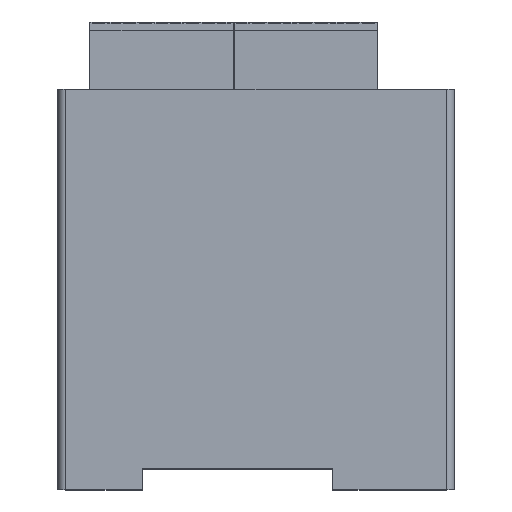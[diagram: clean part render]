
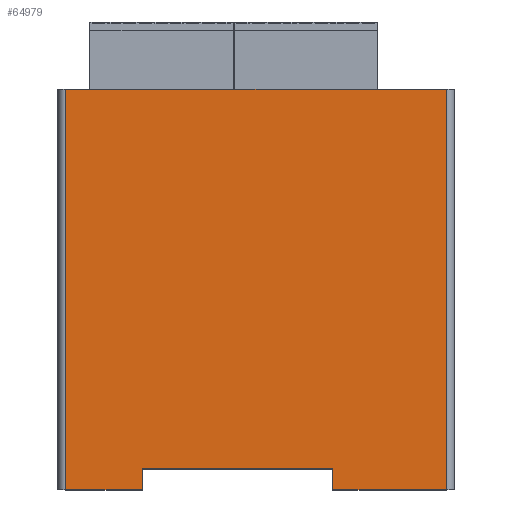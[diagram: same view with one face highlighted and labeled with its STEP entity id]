
A CAD part, top view. The second image highlights one B-rep face of the part: STEP entity #64979.
In plain terms, the highlighted planar face has unit normal (0, 0, 1).
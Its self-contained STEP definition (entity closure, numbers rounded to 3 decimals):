
#7841=DIRECTION('',(0.,-1.,0.));
#7842=VECTOR('',#7841,97.);
#7843=CARTESIAN_POINT('',(-46.15,48.,31.));
#7844=LINE('',#7843,#7842);
#7845=DIRECTION('',(0.,-1.,0.));
#7846=VECTOR('',#7845,5.);
#7847=CARTESIAN_POINT('',(-27.51,-44.,31.));
#7848=LINE('',#7847,#7846);
#7849=DIRECTION('',(-1.,0.,0.));
#7850=VECTOR('',#7849,18.64);
#7851=CARTESIAN_POINT('',(-27.51,-49.,31.));
#7852=LINE('',#7851,#7850);
#7853=DIRECTION('',(1.,0.,0.));
#7854=VECTOR('',#7853,92.3);
#7855=CARTESIAN_POINT('',(-46.15,48.,31.));
#7856=LINE('',#7855,#7854);
#7857=DIRECTION('',(-1.,0.,0.));
#7858=VECTOR('',#7857,27.53);
#7859=CARTESIAN_POINT('',(46.15,-49.,31.));
#7860=LINE('',#7859,#7858);
#7861=DIRECTION('',(-1.,0.,0.));
#7862=VECTOR('',#7861,46.13);
#7863=CARTESIAN_POINT('',(18.62,-44.,31.));
#7864=LINE('',#7863,#7862);
#7869=DIRECTION('',(0.,1.,0.));
#7870=VECTOR('',#7869,97.);
#7871=CARTESIAN_POINT('',(46.15,-49.,31.));
#7872=LINE('',#7871,#7870);
#7907=DIRECTION('',(0.,-1.,0.));
#7908=VECTOR('',#7907,5.);
#7909=CARTESIAN_POINT('',(18.62,-44.,31.));
#7910=LINE('',#7909,#7908);
#45219=CARTESIAN_POINT('',(46.15,48.,31.));
#45220=VERTEX_POINT('',#45219);
#45221=CARTESIAN_POINT('',(-46.15,48.,31.));
#45222=VERTEX_POINT('',#45221);
#58561=CARTESIAN_POINT('',(-27.51,-49.,31.));
#58562=VERTEX_POINT('',#58561);
#58563=CARTESIAN_POINT('',(-27.51,-44.,31.));
#58564=VERTEX_POINT('',#58563);
#58565=CARTESIAN_POINT('',(-46.15,-49.,31.));
#58566=VERTEX_POINT('',#58565);
#58567=CARTESIAN_POINT('',(18.62,-49.,31.));
#58568=VERTEX_POINT('',#58567);
#58569=CARTESIAN_POINT('',(46.15,-49.,31.));
#58570=VERTEX_POINT('',#58569);
#58575=CARTESIAN_POINT('',(18.62,-44.,31.));
#58576=VERTEX_POINT('',#58575);
#64960=CARTESIAN_POINT('',(0.,0.,31.));
#64961=DIRECTION('',(0.,0.,1.));
#64962=DIRECTION('',(1.,0.,0.));
#64963=AXIS2_PLACEMENT_3D('',#64960,#64961,#64962);
#64964=PLANE('',#64963);
#64965=ORIENTED_EDGE('',*,*,#64924,.T.);
#64966=ORIENTED_EDGE('',*,*,#64942,.T.);
#64967=ORIENTED_EDGE('',*,*,#64955,.F.);
#64968=ORIENTED_EDGE('',*,*,#58667,.T.);
#64970=ORIENTED_EDGE('',*,*,#64969,.F.);
#64972=ORIENTED_EDGE('',*,*,#64971,.T.);
#64974=ORIENTED_EDGE('',*,*,#64973,.F.);
#64976=ORIENTED_EDGE('',*,*,#64975,.T.);
#64977=EDGE_LOOP('',(#64965,#64966,#64967,#64968,#64970,#64972,#64974,#64976));
#64978=FACE_OUTER_BOUND('',#64977,.F.);
#58667=EDGE_CURVE('',#45222,#45220,#7856,.T.);
#64924=EDGE_CURVE('',#58564,#58562,#7848,.T.);
#64942=EDGE_CURVE('',#58562,#58566,#7852,.T.);
#64955=EDGE_CURVE('',#45222,#58566,#7844,.T.);
#64969=EDGE_CURVE('',#58570,#45220,#7872,.T.);
#64971=EDGE_CURVE('',#58570,#58568,#7860,.T.);
#64973=EDGE_CURVE('',#58576,#58568,#7910,.T.);
#64975=EDGE_CURVE('',#58576,#58564,#7864,.T.);
#64979=ADVANCED_FACE('',(#64978),#64964,.T.);
